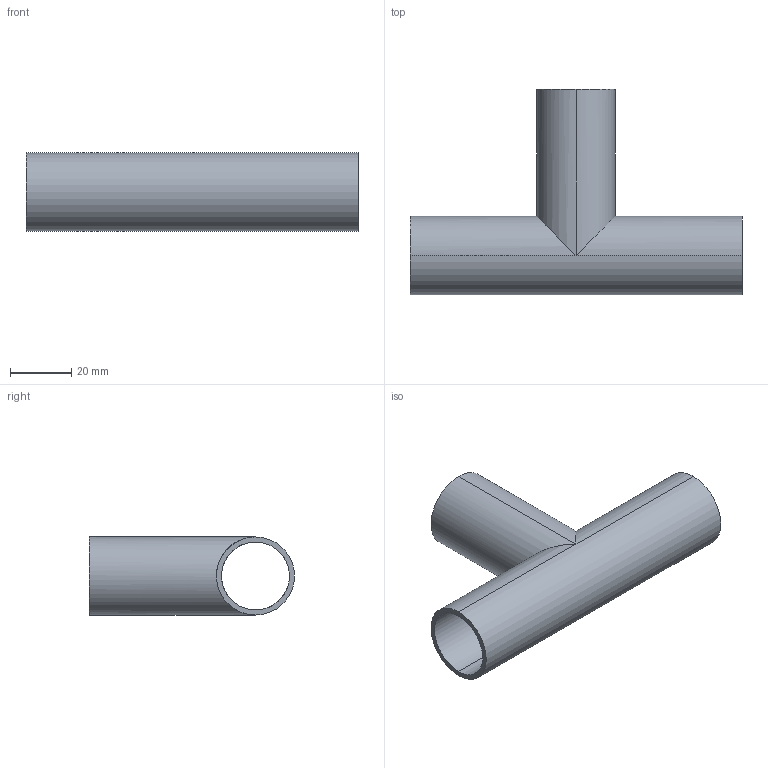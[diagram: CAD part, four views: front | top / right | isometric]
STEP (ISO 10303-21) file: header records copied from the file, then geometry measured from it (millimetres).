
FILE_DESCRIPTION (( 'STEP AP214' ), '1' );
FILE_NAME ('TE7WWW6L1.0-...STEP', '2016-05-23T06:20:07', ( 'eran' ), ( '' ), 'SwSTEP 2.0', 'SolidWorks 2016', '' );
FILE_SCHEMA (( 'AUTOMOTIVE_DESIGN' ));
Length unit declared in the file: millimetre
Products named in the file (1): TE7WWW6L1.0-..
Bounding box: 108 x 66.7 x 25.4 mm (x, y, z)
Volume: 18103.3 mm3; surface area: 22289.8 mm2
Topology: 1 solids, 1 shells, 13 faces, 28 edges, 16 vertices
Faces by surface type: cylinder 10, plane 3
Entity records: 1490 total; most frequent: CARTESIAN_POINT 1191, ORIENTED_EDGE 56, DIRECTION 46, EDGE_CURVE 28, AXIS2_PLACEMENT_3D 17, EDGE_LOOP 16, VERTEX_POINT 16, ADVANCED_FACE 13
